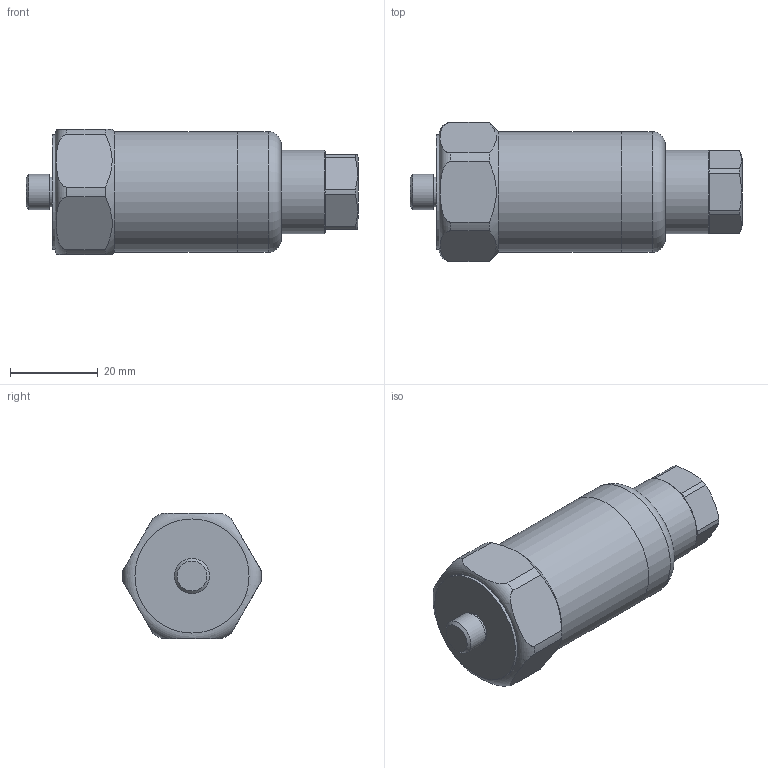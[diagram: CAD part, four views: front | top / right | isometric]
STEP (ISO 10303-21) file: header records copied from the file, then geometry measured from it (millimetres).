
FILE_DESCRIPTION(/* description */ (''),/* implementation_level */ '2;1');
FILE_NAME(/* name */ 'Z:\Engineering\Drawings\3D Library\Assemblies\Website\420 Velocity\HS-420XXX0108.stp',/* time_stamp */ '2023-05-03T13:43:10+01:00',/* author */ ('Ricardo.Peneda'),/* organization */ (''),/* preprocessor_version */ 'ST-DEVELOPER v18.1',/* originating_system */ 'Autodesk Inventor 2021',/* authorisation */ '');
FILE_SCHEMA (('AUTOMOTIVE_DESIGN { 1 0 10303 214 3 1 1 }'));
Length unit declared in the file: inch
Products named in the file (1): HS-420XXX0108_Shrinkwrap_1
Bounding box: 75.63 x 31.69 x 28.5 mm (x, y, z)
Volume: 17561.1 mm3; surface area: 13263.3 mm2
Topology: 4 solids, 4 shells, 80 faces, 212 edges, 155 vertices
Faces by surface type: plane 35, cylinder 34, cone 8, torus 3
Full cylindrical faces by diameter (mm): 5 x1, 6.3 x1, 6.35 x1, 6.8 x1, 7 x1, 7.5 x1, 8 x1, 9 x1, 11.647 x1, 12 x1, 13.882 x1, 14 x1, 15 x2, 18 x1, 19 x1, 20 x1, 25.3 x2, 26 x1, 27.5 x2
Entity records: 2873 total; most frequent: CARTESIAN_POINT 624, DIRECTION 486, ORIENTED_EDGE 424, AXIS2_PLACEMENT_3D 213, EDGE_CURVE 212, VERTEX_POINT 155, CIRCLE 132, EDGE_LOOP 99
